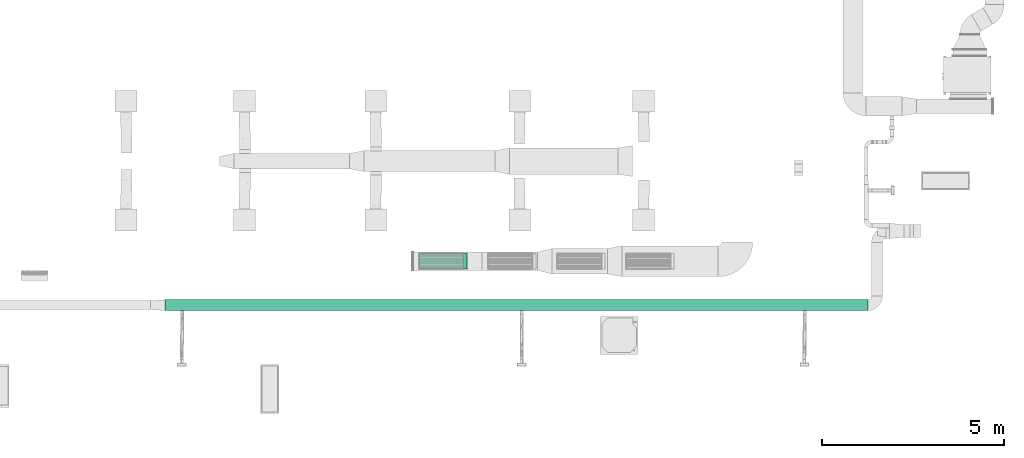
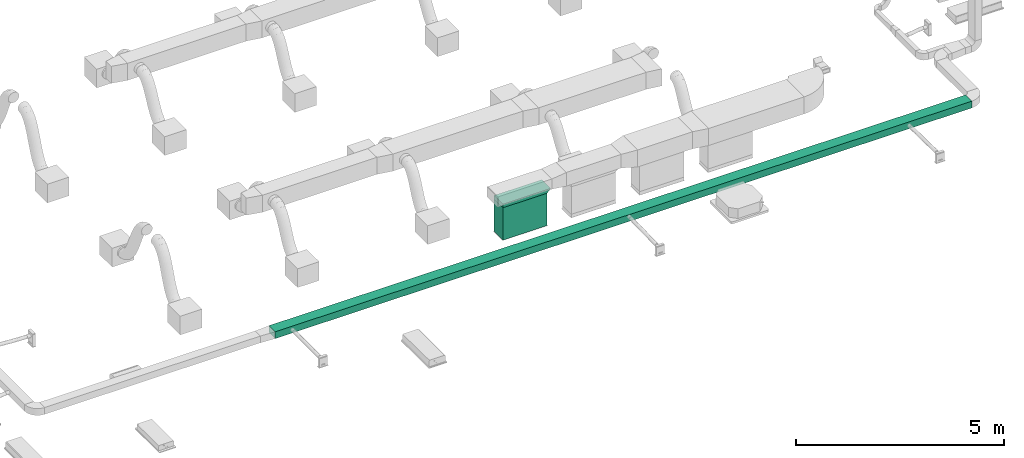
# One storey, part 3 of 60: 2 flow segments, 1 flow fitting.
"""IFC2X3 building model written with IfcOpenShell, lengths in millimetres."""

from ifc_helpers import new_model, entity, si_unit, converted_unit, derived_unit, direction, frame, frame_2d, origin, place, context, subcontext, project, spatial, polyline, rectangle, outline, extrude, source, transform, mapped, material, type_object, type_shapes, element, save


model = new_model("IFC2X3")

# Units and contexts
model_context = context("Model", 3, precision=0.01, world=origin(), true_north=direction((6.123233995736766e-17, 1.0)))
body_context = subcontext(model_context, "Body", "Model", "MODEL_VIEW")
ifc_project = project(units=[si_unit("LENGTHUNIT", "METRE", prefix="MILLI"), converted_unit("PLANEANGLEUNIT", "DEGREE", entity("IfcPlaneAngleMeasure", 0.017453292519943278), si_unit("PLANEANGLEUNIT", "RADIAN"), dimensions=[0, 0, 0, 0, 0, 0, 0]), si_unit("AREAUNIT", "SQUARE_METRE"), derived_unit("THERMALTRANSMITTANCEUNIT", [(si_unit("MASSUNIT", "GRAM", prefix="KILO"), 1), (si_unit("THERMODYNAMICTEMPERATUREUNIT", "KELVIN"), -1), (si_unit("TIMEUNIT", "SECOND"), -3)])], contexts=[model_context])

# Site, building, storey
site_placement = place(None, origin())
site = spatial("IfcSite", under=ifc_project, at=site_placement, Name="Default", CompositionType="ELEMENT")
building_placement = place(site_placement, origin())
building = spatial("IfcBuilding", under=site, at=building_placement, Name="Praça Pedro II, 1301 - Centro (Sul), Teresina - PI, 64001-100", CompositionType="ELEMENT")
storey_placement = place(building_placement, frame((0.0, 0.0, 6040.0)))
storey = spatial("IfcBuildingStorey", under=building, at=storey_placement, Name="2PAV", CompositionType="ELEMENT", Elevation=6040.0)

# Flow segments
duct_segment_type = type_object("IfcDuctSegmentType", Name="Duto retangular:Raios cotovelos / torneiras", PredefinedType="NOTDEFINED")
flow_segment_1_placement = place(storey_placement, origin())
element("IfcFlowSegment", 1, at=flow_segment_1_placement, inside=storey, type_object=duct_segment_type, Name="Duto retangular:Raios cotovelos / torneiras", ObjectType="Duto retangular:Raios cotovelos / torneiras", context=body_context, shape_type="SweptSolid", body=[
    extrude(rectangle(XDim=425.00000000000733, YDim=1224.9999999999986, at=frame_2d((8.668621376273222e-12, 0.0), x_axis=(1.0, 0.0))), frame((24349.517499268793, -67411.94163590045, 2300.0), z_axis=(0.0, 0.0, 1.0), x_axis=(0.0, -1.0, 0.0)), (0.0, 0.0, 1.0), 949.9999999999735),
])
flow_segment_2_placement = place(storey_placement, origin())
element("IfcFlowSegment", 2, at=flow_segment_2_placement, inside=storey, type_object=duct_segment_type, Name="Duto retangular:Raios cotovelos / torneiras", ObjectType="Duto retangular:Raios cotovelos / torneiras", context=body_context, shape_type="SweptSolid", body=[
    extrude(rectangle(XDim=19340.35780281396, YDim=300.00000000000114, at=frame_2d((2.7284841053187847e-12, 4.334310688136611e-12), x_axis=(1.0, 0.0))), frame((26425.190024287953, -68620.24419274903, 2550.0)), (0.0, 0.0, 1.0), 200.0),
])

# Flow fitting
ifc_material = material(Name="<Unnamed>")
duct_fitting_type = type_object("IfcDuctFittingType", Name="M_Rectangular Tap - Beveled:Standard", PredefinedType="NOTDEFINED", material=ifc_material)
shared_shape = source(origin(), body_context, "Body", "SweptSolid", [
    extrude(outline(polyline([(-775.0, -62.438400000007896), (450.0, -62.438400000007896), (550.0, 37.56159999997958), (550.0, 43.6576000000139), (-775.0, 43.65760000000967), (-775.0, -62.438400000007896)])), frame((37.56159999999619, 162.50000000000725, -212.49999999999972), z_axis=(0.0, 0.0, 1.0), x_axis=(0.0, 1.0, 0.0)), (0.0, 0.0, 1.0), 424.99999999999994),
])
type_shapes(duct_fitting_type, [shared_shape])
flow_fitting_placement = place(storey_placement, frame((24349.517499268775, -67411.94163590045, 3350.0), z_axis=(0.0, -1.0, 0.0), x_axis=(0.0, 0.0, -1.0)))
element("IfcFlowFitting", 3, at=flow_fitting_placement, inside=storey, type_object=duct_fitting_type, material=ifc_material, Name="M_Rectangular Tap - Beveled:Standard", ObjectType="M_Rectangular Tap - Beveled:Standard", context=body_context, shape_type="MappedRepresentation", body=[
    mapped(shared_shape, transform((0.0, 0.0, 0.0), scale=1.0)),
])

save(model, "model.ifc")
